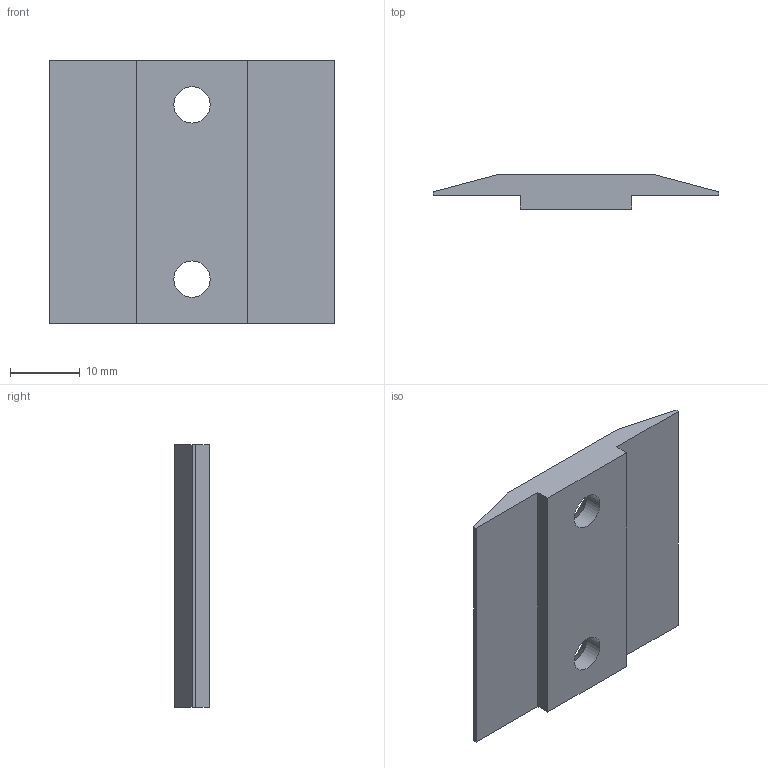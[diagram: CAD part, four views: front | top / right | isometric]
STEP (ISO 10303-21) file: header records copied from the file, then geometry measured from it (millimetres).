
FILE_DESCRIPTION(/* description */ (''),/* implementation_level */ '2;1');
FILE_NAME(/* name */ '1907_CHAIN_FIXING.stp',/* time_stamp */ '2019-07-18T17:20:38+02:00',/* author */ (''),/* organization */ (''),/* preprocessor_version */ 'ST-DEVELOPER v16.7',/* originating_system */ 'SIEMENS PLM Software NX 12.0',/* authorisation */ '');
FILE_SCHEMA (('AUTOMOTIVE_DESIGN { 1 0 10303 214 3 1 1 1 }'));
Length unit declared in the file: millimetre
Products named in the file (1): bmas477C8C18u697
Bounding box: 41 x 5 x 37.6 mm (x, y, z)
Volume: 4615.5 mm3; surface area: 3606.8 mm2
Topology: 1 solids, 1 shells, 16 faces, 42 edges, 28 vertices
Faces by surface type: plane 12, cylinder 2, cone 2
Full cylindrical faces by diameter (mm): 5.2 x2
Entity records: 494 total; most frequent: CARTESIAN_POINT 79, DIRECTION 76, ORIENTED_EDGE 72, EDGE_CURVE 36, LINE 30, VECTOR 30, VERTEX_POINT 26, EDGE_LOOP 24
